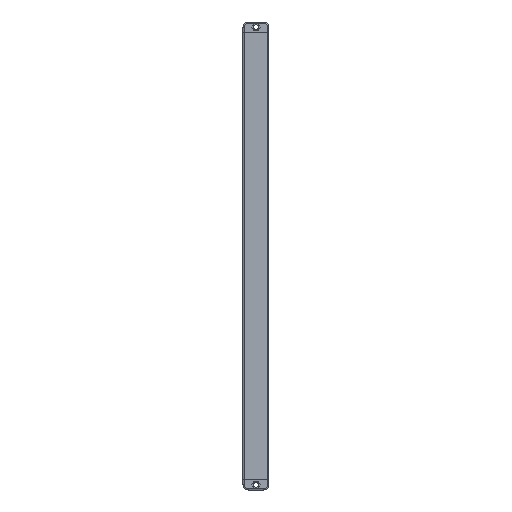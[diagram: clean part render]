
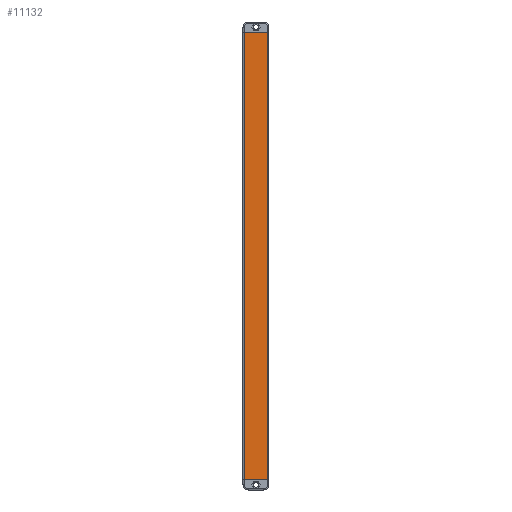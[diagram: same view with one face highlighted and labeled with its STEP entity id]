
A CAD part, front view. The second image highlights one B-rep face of the part: STEP entity #11132.
In plain terms, the highlighted planar face has unit normal (0, -1, 0).
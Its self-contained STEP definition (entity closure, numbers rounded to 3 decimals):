
#85 = ORIENTED_EDGE ( 'NONE', *, *, #1774, .T. ) ;
#131 = AXIS2_PLACEMENT_3D ( 'NONE', #7029, #10565, #2623 ) ;
#327 = CARTESIAN_POINT ( 'NONE',  ( -11.5, -6., 430. ) ) ;
#721 = CARTESIAN_POINT ( 'NONE',  ( -11.5, -6., 430. ) ) ;
#1155 = VERTEX_POINT ( 'NONE', #10060 ) ;
#1774 = EDGE_CURVE ( 'NONE', #10469, #10324, #8666, .T. ) ;
#2544 = EDGE_LOOP ( 'NONE', ( #3473, #3015, #4696, #85 ) ) ;
#2623 = DIRECTION ( 'NONE',  ( 0., 0., 1. ) ) ;
#2779 = CARTESIAN_POINT ( 'NONE',  ( 11.5, -6., 430. ) ) ;
#2809 = VECTOR ( 'NONE', #6645, 1000. ) ;
#3015 = ORIENTED_EDGE ( 'NONE', *, *, #7136, .F. ) ;
#3032 = CARTESIAN_POINT ( 'NONE',  ( 11.5, -6., 0. ) ) ;
#3108 = CARTESIAN_POINT ( 'NONE',  ( -0.005, -6., 0. ) ) ;
#3473 = ORIENTED_EDGE ( 'NONE', *, *, #9326, .T. ) ;
#3493 = PLANE ( 'NONE',  #131 ) ;
#3863 = DIRECTION ( 'NONE',  ( 1., 0., 0. ) ) ;
#4262 = DIRECTION ( 'NONE',  ( 0., 0., -1. ) ) ;
#4696 = ORIENTED_EDGE ( 'NONE', *, *, #10463, .F. ) ;
#5324 = VECTOR ( 'NONE', #6312, 1000. ) ;
#6312 = DIRECTION ( 'NONE',  ( 0., 0., -1. ) ) ;
#6645 = DIRECTION ( 'NONE',  ( 1., 0., 0. ) ) ;
#7029 = CARTESIAN_POINT ( 'NONE',  ( -0.005, -6., 430. ) ) ;
#7055 = CARTESIAN_POINT ( 'NONE',  ( -11.5, -6., 0. ) ) ;
#7136 = EDGE_CURVE ( 'NONE', #1155, #7533, #10720, .T. ) ;
#7486 = VECTOR ( 'NONE', #4262, 1000. ) ;
#7533 = VERTEX_POINT ( 'NONE', #3032 ) ;
#8189 = VECTOR ( 'NONE', #3863, 1000. ) ;
#8261 = LINE ( 'NONE', #327, #8189 ) ;
#8666 = LINE ( 'NONE', #721, #7486 ) ;
#8762 = FACE_OUTER_BOUND ( 'NONE', #2544, .T. ) ;
#9326 = EDGE_CURVE ( 'NONE', #10324, #7533, #11048, .T. ) ;
#10060 = CARTESIAN_POINT ( 'NONE',  ( 11.5, -6., 430. ) ) ;
#10324 = VERTEX_POINT ( 'NONE', #7055 ) ;
#10463 = EDGE_CURVE ( 'NONE', #10469, #1155, #8261, .T. ) ;
#10469 = VERTEX_POINT ( 'NONE', #10932 ) ;
#10565 = DIRECTION ( 'NONE',  ( 0., 1., 0. ) ) ;
#10720 = LINE ( 'NONE', #2779, #5324 ) ;
#10932 = CARTESIAN_POINT ( 'NONE',  ( -11.5, -6., 430. ) ) ;
#11048 = LINE ( 'NONE', #3108, #2809 ) ;
#11132 = ADVANCED_FACE ( 'NONE', ( #8762 ), #3493, .F. ) ;
